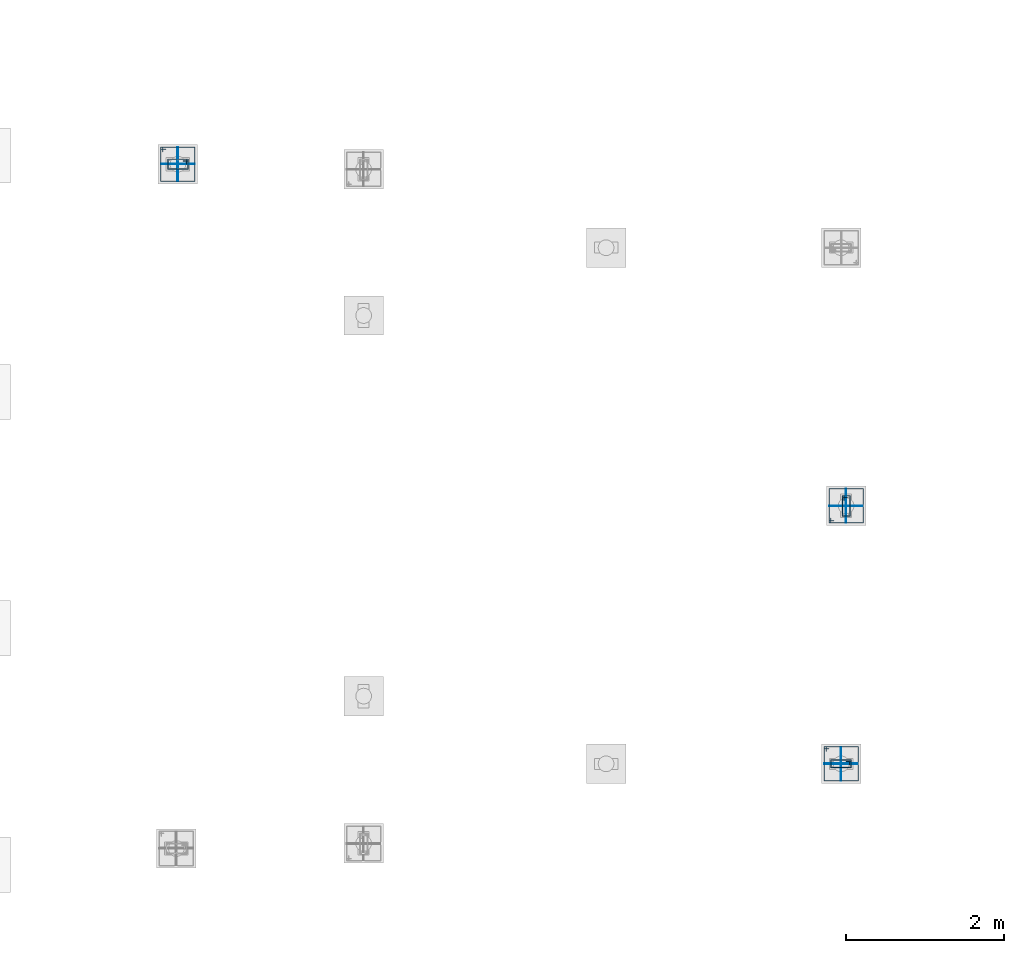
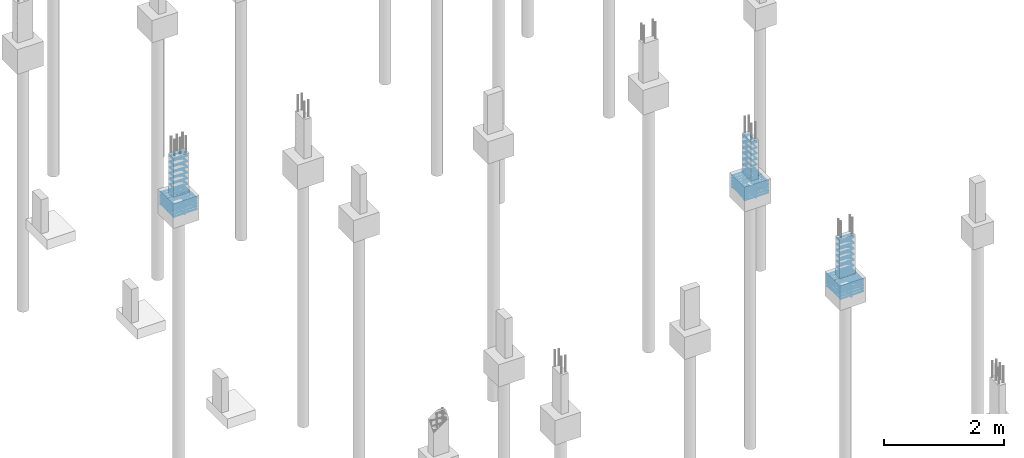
# One storey, part 85 of 119: 51 reinforcing bars.
"""IFC4 building model written with IfcOpenShell, lengths in centimetres."""

import ifcopenshell
import ifcopenshell.guid

model = None  # the IFC model being written
_history = None  # IfcOwnerHistory: only IFC2X3 demands one
_inside = {}  # id of a spatial element -> (the spatial element, [elements in it])
_under = {}  # id of a project, library or spatial element -> (it, [spatial elements below it])
_declared = {}  # id of a project -> (the project, [libraries it declares])
_typed = {}  # id of a type object -> (the type object, [elements of that type])
_made_of = {}  # id of a material, layer set ... -> (it, [elements and type objects made of it])


def new_model(schema):
    """Start an empty IFC model of exactly this schema.

    Asked for "IFC4X3", IfcOpenShell would pick the latest addendum, in which some entities
    have other attributes; the version numbers below select the first issue.
    IFC2X3 requires an IfcOwnerHistory on every rooted entity: one is made here for all.
    """
    global model, _history
    if schema == "IFC4X3":
        model = ifcopenshell.file(schema_version=(4, 3, 0, 0))
    else:
        model = ifcopenshell.file(schema=schema)
    _inside.clear()
    _under.clear()
    _declared.clear()
    _typed.clear()
    _made_of.clear()
    _history = None
    if model.schema == "IFC2X3":
        org = make("IfcOrganization", Name="unknown")
        user = make(
            "IfcPersonAndOrganization",
            ThePerson=make("IfcPerson", FamilyName="unknown"),
            TheOrganization=org,
        )
        app = make(
            "IfcApplication",
            ApplicationDeveloper=org,
            Version="unknown",
            ApplicationFullName="unknown",
            ApplicationIdentifier="unknown",
        )
        _history = make(
            "IfcOwnerHistory",
            OwningUser=user,
            OwningApplication=app,
            ChangeAction="ADDED",
            CreationDate=0,
        )
    return model


def make(cls, **values):
    """One entity of the class cls with the attributes given. An attribute that is None is left unset."""
    return model.create_entity(
        cls, **{name: value for name, value in values.items() if value is not None}
    )


def entity(cls, *values):
    """Any entity or typed value of the class cls, its attributes in the order of the schema. None: left unset."""
    e = model.create_entity(cls)
    for i, value in enumerate(values):
        if value is not None:
            e[i] = value
    return e


def rooted(cls, **values):
    """An entity with a GlobalId (a new one), such as an element, a storey or a relation."""
    return make(cls, GlobalId=ifcopenshell.guid.new(), OwnerHistory=_history, **values)


def si_unit(unit_type, name, prefix=None):
    """IfcSIUnit, for example si_unit("LENGTHUNIT", "METRE", prefix="MILLI")."""
    return make("IfcSIUnit", UnitType=unit_type, Prefix=prefix, Name=name)


def derived_unit(unit_type, elements):
    """IfcDerivedUnit: a product of units, each with its exponent."""
    return make(
        "IfcDerivedUnit",
        Elements=[
            make("IfcDerivedUnitElement", Unit=unit, Exponent=power)
            for unit, power in elements
        ],
        UnitType=unit_type,
    )


def assignment(units):
    """IfcUnitAssignment: the units of a project."""
    return None if units is None else make("IfcUnitAssignment", Units=units)


def point(xyz):
    """IfcCartesianPoint."""
    return None if xyz is None else make("IfcCartesianPoint", Coordinates=xyz)


def direction(xyz):
    """IfcDirection."""
    return None if xyz is None else make("IfcDirection", DirectionRatios=xyz)


def frame(location, z_axis=None, x_axis=None):
    """IfcAxis2Placement3D, a coordinate frame: its origin and axes. An axis left out is left unset."""
    return make(
        "IfcAxis2Placement3D",
        Location=point(location),
        Axis=direction(z_axis),
        RefDirection=direction(x_axis),
    )


def origin_with_axes():
    """The frame at (0, 0, 0) with the z axis (0, 0, 1) and the x axis (1, 0, 0) written out."""
    return frame((0.0, 0.0, 0.0), z_axis=(0.0, 0.0, 1.0), x_axis=(1.0, 0.0, 0.0))


def place(relative_to, where):
    """IfcLocalPlacement: puts the frame where relative to a parent placement (None: the world)."""
    return make(
        "IfcLocalPlacement", PlacementRelTo=relative_to, RelativePlacement=where
    )


def context(
    kind, dimensions, precision=None, world=None, true_north=None, identifier=None
):
    """IfcGeometricRepresentationContext, for example the 3D "Model" context."""
    return make(
        "IfcGeometricRepresentationContext",
        ContextIdentifier=identifier,
        ContextType=kind,
        CoordinateSpaceDimension=dimensions,
        Precision=precision,
        WorldCoordinateSystem=world,
        TrueNorth=true_north,
    )


def project(units=None, contexts=None):
    """IfcProject with its units and contexts."""
    return rooted(
        "IfcProject",
        Name="project",
        RepresentationContexts=contexts,
        UnitsInContext=assignment(units),
    )


def spatial(cls, under=None, at=None, **own):
    """A site, building, storey or space (cls), placed at a placement, below another one or the project."""
    s = rooted(cls, ObjectPlacement=at, **own)
    if under is not None:
        _under.setdefault(under.id(), (under, []))[1].append(s)
    return s


def shape(context_of_items, identifier, shape_type, items):
    """IfcShapeRepresentation: the items that make up one representation, for example the "Body"."""
    return make(
        "IfcShapeRepresentation",
        ContextOfItems=context_of_items,
        RepresentationIdentifier=identifier,
        RepresentationType=shape_type,
        Items=items,
    )


def source(mapping_origin, context_of_items, identifier, shape_type, items):
    """IfcRepresentationMap: a shape defined once, which mapped items show again and again."""
    return make(
        "IfcRepresentationMap",
        MappingOrigin=mapping_origin,
        MappedRepresentation=shape(context_of_items, identifier, shape_type, items),
    )


def transform(
    local_origin,
    x_axis=None,
    y_axis=None,
    z_axis=None,
    scale=None,
    scale2=None,
    scale3=None,
    uniform=True,
):
    """IfcCartesianTransformationOperator3D, or its non-uniform kind. x_axis, y_axis, z_axis: its Axis1, 2, 3."""
    if uniform:
        return make(
            "IfcCartesianTransformationOperator3D",
            Axis1=direction(x_axis),
            Axis2=direction(y_axis),
            LocalOrigin=point(local_origin),
            Scale=scale,
            Axis3=direction(z_axis),
        )
    return make(
        "IfcCartesianTransformationOperator3DnonUniform",
        Axis1=direction(x_axis),
        Axis2=direction(y_axis),
        LocalOrigin=point(local_origin),
        Scale=scale,
        Axis3=direction(z_axis),
        Scale2=scale2,
        Scale3=scale3,
    )


def mapped(mapping_source, mapping_target):
    """IfcMappedItem: shows the shape of a source again, moved by a transform."""
    return make(
        "IfcMappedItem", MappingSource=mapping_source, MappingTarget=mapping_target
    )


def made_of(thing, what):
    """Note that an element or type object is made of a material, layer set ...; save() writes the relation."""
    if what is not None:
        _made_of.setdefault(what.id(), (what, []))[1].append(thing)
    return thing


def element(
    cls,
    number,
    at=None,
    inside=None,
    cuts=None,
    type_object=None,
    material=None,
    context=None,
    identifier="Body",
    shape_type=None,
    held_by="IfcProductDefinitionShape",
    body=None,
    shapes=None,
    **own,
):
    """One element of the class cls, such as IfcWall. Its Tag is "e" and its number.

    at: its placement. inside: the storey or other place that contains it. cuts: it is an
    opening in that element (IfcRelVoidsElement). A single representation is given by context,
    identifier, shape_type and body (its items); several are given by shapes. held_by: the class
    of the entity that holds the representations. save() writes the other relations.
    """
    e = rooted(cls, Tag="e%d" % number, ObjectPlacement=at, **own)
    if body is not None:
        shapes = [shape(context, identifier, shape_type, body)]
    if shapes is not None:
        e.Representation = make(held_by, Representations=shapes)
    if inside is not None:
        _inside.setdefault(inside.id(), (inside, []))[1].append(e)
    if cuts is not None:
        rooted(
            "IfcRelVoidsElement", RelatingBuildingElement=cuts, RelatedOpeningElement=e
        )
    if type_object is not None:
        _typed.setdefault(type_object.id(), (type_object, []))[1].append(e)
    return made_of(e, material)


def aggregate(whole, parts):
    """IfcRelAggregates: a whole, such as a stair, and the parts it consists of."""
    return rooted("IfcRelAggregates", RelatingObject=whole, RelatedObjects=parts)


def save(model, path):
    """Write the relations noted so far, then the file.

    IfcRelAggregates (storeys below a building ...), IfcRelContainedInSpatialStructure (elements
    in a storey), IfcRelDefinesByType, IfcRelAssociatesMaterial and IfcRelDeclares: one each for
    every whole, place, type object, material and project.
    """
    for whole, parts in _under.values():
        aggregate(whole, parts)
    for where, things in _inside.values():
        rooted(
            "IfcRelContainedInSpatialStructure",
            RelatedElements=things,
            RelatingStructure=where,
        )
    for kind, things in _typed.values():
        rooted("IfcRelDefinesByType", RelatedObjects=things, RelatingType=kind)
    for what, things in _made_of.values():
        rooted("IfcRelAssociatesMaterial", RelatedObjects=things, RelatingMaterial=what)
    for by, libraries in _declared.values():
        rooted("IfcRelDeclares", RelatingContext=by, RelatedDefinitions=libraries)
    model.write(path)


model = new_model("IFC4")

# Units and contexts
model_context = context("Model", 3, precision=1e-05, world=origin_with_axes(), identifier="Body")
ifc_project = project(units=[si_unit("LENGTHUNIT", "METRE", prefix="CENTI"), si_unit("VOLUMEUNIT", "CUBIC_METRE"), si_unit("AREAUNIT", "SQUARE_METRE"), si_unit("POWERUNIT", "WATT"), si_unit("LUMINOUSFLUXUNIT", "LUMEN"), si_unit("ELECTRICCURRENTUNIT", "AMPERE"), si_unit("PRESSUREUNIT", "PASCAL", prefix="KILO"), si_unit("MASSUNIT", "GRAM", prefix="KILO"), si_unit("PLANEANGLEUNIT", "RADIAN"), derived_unit("VOLUMETRICFLOWRATEUNIT", [(si_unit("LENGTHUNIT", "METRE"), 3), (si_unit("TIMEUNIT", "SECOND"), -1)])], contexts=[model_context])

# Site, building, storey
site_placement = place(None, frame((-4000.0, 0.0, 0.0), z_axis=(0.0, 0.0, 1.0), x_axis=(1.0, 0.0, 0.0)))
site = spatial("IfcSite", under=ifc_project, at=site_placement, Name="PADRÃO")
building_placement = place(site_placement, frame((0.0, 0.0, -14.0)))
building = spatial("IfcBuilding", under=site, at=building_placement, Name="CRECHE PRÉ-ESCOLA TIPO 2")
storey_placement = place(building_placement, origin_with_axes())
storey = spatial("IfcBuildingStorey", under=building, at=storey_placement, Name="FUNDAÇÃO", CompositionType="ELEMENT", Elevation=-14.0)

# Reinforcing bars
shared_shape_1 = source(origin_with_axes(), model_context, "Body", "AdvancedSweptSolid", [
    entity("IfcSweptDiskSolid", entity("IfcCompositeCurve", [entity("IfcCompositeCurveSegment", "CONTINUOUS", True, entity("IfcPolyline", [entity("IfcCartesianPoint", [4.25, 21.75, 0.0]), entity("IfcCartesianPoint", [4.25, 27.75, 0.0])])), entity("IfcCompositeCurveSegment", "CONTINUOUS", True, entity("IfcPolyline", [entity("IfcCartesianPoint", [4.25, 27.75, 0.0]), entity("IfcCartesianPoint", [2.25, 27.75, 0.0])])), entity("IfcCompositeCurveSegment", "CONTINUOUS", True, entity("IfcPolyline", [entity("IfcCartesianPoint", [2.25, 27.75, 0.0]), entity("IfcCartesianPoint", [2.25, 2.25, 0.0])])), entity("IfcCompositeCurveSegment", "CONTINUOUS", True, entity("IfcPolyline", [entity("IfcCartesianPoint", [2.25, 2.25, 0.0]), entity("IfcCartesianPoint", [14.75, 2.25, 0.0])])), entity("IfcCompositeCurveSegment", "CONTINUOUS", True, entity("IfcPolyline", [entity("IfcCartesianPoint", [14.75, 2.25, 0.0]), entity("IfcCartesianPoint", [14.75, 27.75, -0.5])])), entity("IfcCompositeCurveSegment", "CONTINUOUS", True, entity("IfcPolyline", [entity("IfcCartesianPoint", [14.75, 27.75, -0.5]), entity("IfcCartesianPoint", [2.25, 27.75, -0.5])])), entity("IfcCompositeCurveSegment", "CONTINUOUS", True, entity("IfcPolyline", [entity("IfcCartesianPoint", [2.25, 27.75, -0.5]), entity("IfcCartesianPoint", [2.25, 25.75, -0.5])])), entity("IfcCompositeCurveSegment", "CONTINUOUS", True, entity("IfcPolyline", [entity("IfcCartesianPoint", [2.25, 25.75, -0.5]), entity("IfcCartesianPoint", [8.25, 25.75, -0.5])]))], False), 0.25),
])
for number, where, z_axis, x_axis, name in (
    (1, (253.0, 2692.01, -74.75), (0.0, 0.0, 1.0), (0.0, -1.0, 0.0), "P65 - Estribo"),
    (2, (253.0, 2692.01, -51.75), (0.0, 0.0, 1.0), (0.0, -1.0, 0.0), "P65 - Estribo"),
    (3, (253.0, 2692.01, -40.25), (0.0, 0.0, 1.0), (0.0, -1.0, 0.0), "P65 - Estribo"),
    (4, (253.0, 2692.01, -28.75), (0.0, 0.0, 1.0), (0.0, -1.0, 0.0), "P65 - Estribo"),
    (5, (253.0, 2692.01, -63.25), (0.0, 0.0, 1.0), (0.0, -1.0, 0.0), "P65 - Estribo"),
    (6, (253.0, 2692.01, -5.75), (0.0, 0.0, 1.0), (0.0, -1.0, 0.0), "P65 - Estribo"),
    (7, (253.0, 2692.01, -17.25), (0.0, 0.0, 1.0), (0.0, -1.0, 0.0), "P65 - Estribo"),
    (8, (253.0, 2692.01, -109.25), (0.0, 0.0, 1.0), (0.0, -1.0, 0.0), "P65 - Estribo"),
    (9, (253.0, 2692.01, -97.75), (0.0, 0.0, 1.0), (0.0, -1.0, 0.0), "P65 - Estribo"),
    (10, (253.0, 2692.01, -86.25), (0.0, 0.0, 1.0), (0.0, -1.0, 0.0), "P65 - Estribo"),
):
    element("IfcReinforcingBar", number, at=place(storey_placement, frame(where, z_axis=z_axis, x_axis=x_axis)), inside=storey, Name=name, BarLength=0.0, CrossSectionArea=1.9634954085e-05, NominalDiameter=0.5, PredefinedType="MAIN", context=model_context, shape_type="MappedRepresentation", body=[
        mapped(shared_shape_1, transform((0.0, 0.0, 0.0), scale=1.0)),
    ])
shared_shape_2 = source(origin_with_axes(), model_context, "Body", "AdvancedSweptSolid", [
    entity("IfcSweptDiskSolid", entity("IfcCompositeCurve", [entity("IfcCompositeCurveSegment", "CONTINUOUS", True, entity("IfcPolyline", [entity("IfcCartesianPoint", [248.835, 2698.935, 0.0]), entity("IfcCartesianPoint", [248.835, 2705.195, 0.0])])), entity("IfcCompositeCurveSegment", "CONTINUOUS", True, entity("IfcPolyline", [entity("IfcCartesianPoint", [248.835, 2705.195, 0.0]), entity("IfcCartesianPoint", [246.315, 2705.195, 0.0])])), entity("IfcCompositeCurveSegment", "CONTINUOUS", True, entity("IfcPolyline", [entity("IfcCartesianPoint", [246.315, 2705.195, 0.0]), entity("IfcCartesianPoint", [246.315, 2661.825, 0.0])])), entity("IfcCompositeCurveSegment", "CONTINUOUS", True, entity("IfcPolyline", [entity("IfcCartesianPoint", [246.315, 2661.825, 0.0]), entity("IfcCartesianPoint", [289.685, 2661.825, 0.63])])), entity("IfcCompositeCurveSegment", "CONTINUOUS", True, entity("IfcPolyline", [entity("IfcCartesianPoint", [289.685, 2661.825, 0.63]), entity("IfcCartesianPoint", [289.685, 2705.195, 0.63])])), entity("IfcCompositeCurveSegment", "CONTINUOUS", True, entity("IfcPolyline", [entity("IfcCartesianPoint", [289.685, 2705.195, 0.63]), entity("IfcCartesianPoint", [246.315, 2705.195, 0.63])])), entity("IfcCompositeCurveSegment", "CONTINUOUS", True, entity("IfcPolyline", [entity("IfcCartesianPoint", [246.315, 2705.195, 0.63]), entity("IfcCartesianPoint", [246.315, 2702.675, 0.63])])), entity("IfcCompositeCurveSegment", "CONTINUOUS", True, entity("IfcPolyline", [entity("IfcCartesianPoint", [246.315, 2702.675, 0.63]), entity("IfcCartesianPoint", [252.575, 2702.675, 0.63])]))], False), 0.315),
])
for number, where, z_axis, x_axis, name in (
    (11, (0.0, 0.0, -86.575), (0.0, 0.0, 1.0), (1.0, 0.0, 0.0), "P65 - Blocos (estribos)"),
    (12, (0.0, 0.0, -109.175), (0.0, 0.0, 1.0), (1.0, 0.0, 0.0), "P65 - Blocos (estribos)"),
    (13, (0.0, 0.0, -103.525), (0.0, 0.0, 1.0), (1.0, 0.0, 0.0), "P65 - Blocos (estribos)"),
    (14, (0.0, 0.0, -97.875), (0.0, 0.0, 1.0), (1.0, 0.0, 0.0), "P65 - Blocos (estribos)"),
    (15, (0.0, 0.0, -92.225), (0.0, 0.0, 1.0), (1.0, 0.0, 0.0), "P65 - Blocos (estribos)"),
):
    element("IfcReinforcingBar", number, at=place(storey_placement, frame(where, z_axis=z_axis, x_axis=x_axis)), inside=storey, Name=name, BarLength=0.0, CrossSectionArea=3.1172453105e-05, NominalDiameter=0.63, PredefinedType="MAIN", context=model_context, shape_type="MappedRepresentation", body=[
        mapped(shared_shape_2, transform((0.0, 0.0, 0.0), scale=1.0)),
    ])
shared_shape_3 = source(origin_with_axes(), model_context, "Body", "AdvancedSweptSolid", [
    entity("IfcSweptDiskSolid", entity("IfcCompositeCurve", [entity("IfcCompositeCurveSegment", "CONTINUOUS", True, entity("IfcPolyline", [entity("IfcCartesianPoint", [-15.12, -12.0, 0.0]), entity("IfcCartesianPoint", [-21.12, -12.0, 0.0])])), entity("IfcCompositeCurveSegment", "CONTINUOUS", True, entity("IfcPolyline", [entity("IfcCartesianPoint", [-21.12, -12.0, 0.0]), entity("IfcCartesianPoint", [-21.12, -14.0, 0.0])])), entity("IfcCompositeCurveSegment", "CONTINUOUS", True, entity("IfcPolyline", [entity("IfcCartesianPoint", [-21.12, -14.0, 0.0]), entity("IfcCartesianPoint", [21.12, -14.0, 0.0])])), entity("IfcCompositeCurveSegment", "CONTINUOUS", True, entity("IfcPolyline", [entity("IfcCartesianPoint", [21.12, -14.0, 0.0]), entity("IfcCartesianPoint", [21.12, 14.0, 0.5])])), entity("IfcCompositeCurveSegment", "CONTINUOUS", True, entity("IfcPolyline", [entity("IfcCartesianPoint", [21.12, 14.0, 0.5]), entity("IfcCartesianPoint", [-21.12, 14.0, 0.5])])), entity("IfcCompositeCurveSegment", "CONTINUOUS", True, entity("IfcPolyline", [entity("IfcCartesianPoint", [-21.12, 14.0, 0.5]), entity("IfcCartesianPoint", [-21.12, -14.0, 0.5])])), entity("IfcCompositeCurveSegment", "CONTINUOUS", True, entity("IfcPolyline", [entity("IfcCartesianPoint", [-21.12, -14.0, 0.5]), entity("IfcCartesianPoint", [-19.12, -14.0, 0.5])])), entity("IfcCompositeCurveSegment", "CONTINUOUS", True, entity("IfcPolyline", [entity("IfcCartesianPoint", [-19.12, -14.0, 0.5]), entity("IfcCartesianPoint", [-19.12, -8.0, 0.5])]))], False), 0.25),
])
reinforcing_bar_1_placement = place(storey_placement, frame((268.0, 2683.51, -97.75), z_axis=(0.0, 1.0, 0.0), x_axis=(1.0, 0.0, 0.0)))
element("IfcReinforcingBar", 16, at=reinforcing_bar_1_placement, inside=storey, Name="P65 - Blocos (estribos)", BarLength=0.0, CrossSectionArea=1.9634954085e-05, NominalDiameter=0.5, PredefinedType="MAIN", context=model_context, shape_type="MappedRepresentation", body=[
    mapped(shared_shape_3, transform((0.0, 0.0, 0.0), scale=1.0)),
])
shared_shape_4 = source(origin_with_axes(), model_context, "Body", "AdvancedSweptSolid", [
    entity("IfcSweptDiskSolid", entity("IfcCompositeCurve", [entity("IfcCompositeCurveSegment", "CONTINUOUS", True, entity("IfcPolyline", [entity("IfcCartesianPoint", [-15.12, -12.0, 0.0]), entity("IfcCartesianPoint", [-21.12, -12.0, 0.0])])), entity("IfcCompositeCurveSegment", "CONTINUOUS", True, entity("IfcPolyline", [entity("IfcCartesianPoint", [-21.12, -12.0, 0.0]), entity("IfcCartesianPoint", [-21.12, -14.0, 0.0])])), entity("IfcCompositeCurveSegment", "CONTINUOUS", True, entity("IfcPolyline", [entity("IfcCartesianPoint", [-21.12, -14.0, 0.0]), entity("IfcCartesianPoint", [21.12, -14.0, 0.0])])), entity("IfcCompositeCurveSegment", "CONTINUOUS", True, entity("IfcPolyline", [entity("IfcCartesianPoint", [21.12, -14.0, 0.0]), entity("IfcCartesianPoint", [21.12, 14.0, 0.5])])), entity("IfcCompositeCurveSegment", "CONTINUOUS", True, entity("IfcPolyline", [entity("IfcCartesianPoint", [21.12, 14.0, 0.5]), entity("IfcCartesianPoint", [-21.12, 14.0, 0.5])])), entity("IfcCompositeCurveSegment", "CONTINUOUS", True, entity("IfcPolyline", [entity("IfcCartesianPoint", [-21.12, 14.0, 0.5]), entity("IfcCartesianPoint", [-21.12, -14.0, 0.5])])), entity("IfcCompositeCurveSegment", "CONTINUOUS", True, entity("IfcPolyline", [entity("IfcCartesianPoint", [-21.12, -14.0, 0.5]), entity("IfcCartesianPoint", [-19.12, -14.0, 0.5])])), entity("IfcCompositeCurveSegment", "CONTINUOUS", True, entity("IfcPolyline", [entity("IfcCartesianPoint", [-19.12, -14.0, 0.5]), entity("IfcCartesianPoint", [-19.12, -8.0, 0.5])]))], False), 0.25),
])
reinforcing_bar_2_placement = place(storey_placement, frame((268.0, 2683.51, -97.75), z_axis=(-1.0, 0.0, 0.0), x_axis=(0.0, 1.0, 0.0)))
element("IfcReinforcingBar", 17, at=reinforcing_bar_2_placement, inside=storey, Name="P65 - Blocos (estribos)", BarLength=0.0, CrossSectionArea=1.9634954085e-05, NominalDiameter=0.5, PredefinedType="MAIN", context=model_context, shape_type="MappedRepresentation", body=[
    mapped(shared_shape_4, transform((0.0, 0.0, 0.0), scale=1.0)),
])
shared_shape_5 = source(origin_with_axes(), model_context, "Body", "AdvancedSweptSolid", [
    entity("IfcSweptDiskSolid", entity("IfcCompositeCurve", [entity("IfcCompositeCurveSegment", "CONTINUOUS", True, entity("IfcPolyline", [entity("IfcCartesianPoint", [4.25, 21.75, 0.0]), entity("IfcCartesianPoint", [4.25, 27.75, 0.0])])), entity("IfcCompositeCurveSegment", "CONTINUOUS", True, entity("IfcPolyline", [entity("IfcCartesianPoint", [4.25, 27.75, 0.0]), entity("IfcCartesianPoint", [2.25, 27.75, 0.0])])), entity("IfcCompositeCurveSegment", "CONTINUOUS", True, entity("IfcPolyline", [entity("IfcCartesianPoint", [2.25, 27.75, 0.0]), entity("IfcCartesianPoint", [2.25, 2.25, 0.0])])), entity("IfcCompositeCurveSegment", "CONTINUOUS", True, entity("IfcPolyline", [entity("IfcCartesianPoint", [2.25, 2.25, 0.0]), entity("IfcCartesianPoint", [11.75, 2.25, 0.0])])), entity("IfcCompositeCurveSegment", "CONTINUOUS", True, entity("IfcPolyline", [entity("IfcCartesianPoint", [11.75, 2.25, 0.0]), entity("IfcCartesianPoint", [11.75, 27.75, -0.5])])), entity("IfcCompositeCurveSegment", "CONTINUOUS", True, entity("IfcPolyline", [entity("IfcCartesianPoint", [11.75, 27.75, -0.5]), entity("IfcCartesianPoint", [2.25, 27.75, -0.5])])), entity("IfcCompositeCurveSegment", "CONTINUOUS", True, entity("IfcPolyline", [entity("IfcCartesianPoint", [2.25, 27.75, -0.5]), entity("IfcCartesianPoint", [2.25, 25.75, -0.5])])), entity("IfcCompositeCurveSegment", "CONTINUOUS", True, entity("IfcPolyline", [entity("IfcCartesianPoint", [2.25, 25.75, -0.5]), entity("IfcCartesianPoint", [8.25, 25.75, -0.5])]))], False), 0.25),
])
for number, where, z_axis, x_axis, name in (
    (18, (1094.72, 1929.5, -109.25), (0.0, 0.0, 1.0), (0.0, -1.0, 0.0), "P87 - Estribo"),
    (19, (1094.72, 1929.5, -97.75), (0.0, 0.0, 1.0), (0.0, -1.0, 0.0), "P87 - Estribo"),
    (20, (1094.72, 1929.5, -86.25), (0.0, 0.0, 1.0), (0.0, -1.0, 0.0), "P87 - Estribo"),
    (21, (1094.72, 1929.5, -74.75), (0.0, 0.0, 1.0), (0.0, -1.0, 0.0), "P87 - Estribo"),
    (22, (1094.72, 1929.5, -63.25), (0.0, 0.0, 1.0), (0.0, -1.0, 0.0), "P87 - Estribo"),
    (23, (1094.72, 1929.5, -51.75), (0.0, 0.0, 1.0), (0.0, -1.0, 0.0), "P87 - Estribo"),
    (24, (1094.72, 1929.5, -40.25), (0.0, 0.0, 1.0), (0.0, -1.0, 0.0), "P87 - Estribo"),
    (25, (1094.72, 1929.5, -28.75), (0.0, 0.0, 1.0), (0.0, -1.0, 0.0), "P87 - Estribo"),
    (26, (1094.72, 1929.5, -17.25), (0.0, 0.0, 1.0), (0.0, -1.0, 0.0), "P87 - Estribo"),
    (27, (1094.72, 1929.5, -5.75), (0.0, 0.0, 1.0), (0.0, -1.0, 0.0), "P87 - Estribo"),
):
    element("IfcReinforcingBar", number, at=place(storey_placement, frame(where, z_axis=z_axis, x_axis=x_axis)), inside=storey, Name=name, BarLength=0.0, CrossSectionArea=1.9634954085e-05, NominalDiameter=0.5, PredefinedType="MAIN", context=model_context, shape_type="MappedRepresentation", body=[
        mapped(shared_shape_5, transform((0.0, 0.0, 0.0), scale=1.0)),
    ])
shared_shape_6 = source(origin_with_axes(), model_context, "Body", "AdvancedSweptSolid", [
    entity("IfcSweptDiskSolid", entity("IfcCompositeCurve", [entity("IfcCompositeCurveSegment", "CONTINUOUS", True, entity("IfcPolyline", [entity("IfcCartesianPoint", [1090.555, 1937.925, 0.0]), entity("IfcCartesianPoint", [1090.555, 1944.185, 0.0])])), entity("IfcCompositeCurveSegment", "CONTINUOUS", True, entity("IfcPolyline", [entity("IfcCartesianPoint", [1090.555, 1944.185, 0.0]), entity("IfcCartesianPoint", [1088.035, 1944.185, 0.0])])), entity("IfcCompositeCurveSegment", "CONTINUOUS", True, entity("IfcPolyline", [entity("IfcCartesianPoint", [1088.035, 1944.185, 0.0]), entity("IfcCartesianPoint", [1088.035, 1900.815, 0.0])])), entity("IfcCompositeCurveSegment", "CONTINUOUS", True, entity("IfcPolyline", [entity("IfcCartesianPoint", [1088.035, 1900.815, 0.0]), entity("IfcCartesianPoint", [1131.405, 1900.815, 0.63])])), entity("IfcCompositeCurveSegment", "CONTINUOUS", True, entity("IfcPolyline", [entity("IfcCartesianPoint", [1131.405, 1900.815, 0.63]), entity("IfcCartesianPoint", [1131.405, 1944.185, 0.63])])), entity("IfcCompositeCurveSegment", "CONTINUOUS", True, entity("IfcPolyline", [entity("IfcCartesianPoint", [1131.405, 1944.185, 0.63]), entity("IfcCartesianPoint", [1088.035, 1944.185, 0.63])])), entity("IfcCompositeCurveSegment", "CONTINUOUS", True, entity("IfcPolyline", [entity("IfcCartesianPoint", [1088.035, 1944.185, 0.63]), entity("IfcCartesianPoint", [1088.035, 1941.665, 0.63])])), entity("IfcCompositeCurveSegment", "CONTINUOUS", True, entity("IfcPolyline", [entity("IfcCartesianPoint", [1088.035, 1941.665, 0.63]), entity("IfcCartesianPoint", [1094.295, 1941.665, 0.63])]))], False), 0.315),
])
for number, where, z_axis, x_axis, name in (
    (28, (0.0, 0.0, -103.525), (0.0, 0.0, 1.0), (1.0, 0.0, 0.0), "P87 - Blocos (estribos)"),
    (29, (0.0, 0.0, -97.875), (0.0, 0.0, 1.0), (1.0, 0.0, 0.0), "P87 - Blocos (estribos)"),
    (30, (0.0, 0.0, -92.225), (0.0, 0.0, 1.0), (1.0, 0.0, 0.0), "P87 - Blocos (estribos)"),
    (31, (0.0, 0.0, -86.575), (0.0, 0.0, 1.0), (1.0, 0.0, 0.0), "P87 - Blocos (estribos)"),
    (32, (0.0, 0.0, -109.175), (0.0, 0.0, 1.0), (1.0, 0.0, 0.0), "P87 - Blocos (estribos)"),
):
    element("IfcReinforcingBar", number, at=place(storey_placement, frame(where, z_axis=z_axis, x_axis=x_axis)), inside=storey, Name=name, BarLength=0.0, CrossSectionArea=3.1172453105e-05, NominalDiameter=0.63, PredefinedType="MAIN", context=model_context, shape_type="MappedRepresentation", body=[
        mapped(shared_shape_6, transform((0.0, 0.0, 0.0), scale=1.0)),
    ])
shared_shape_7 = source(origin_with_axes(), model_context, "Body", "AdvancedSweptSolid", [
    entity("IfcSweptDiskSolid", entity("IfcCompositeCurve", [entity("IfcCompositeCurveSegment", "CONTINUOUS", True, entity("IfcPolyline", [entity("IfcCartesianPoint", [-15.12, -12.0, 0.0]), entity("IfcCartesianPoint", [-21.12, -12.0, 0.0])])), entity("IfcCompositeCurveSegment", "CONTINUOUS", True, entity("IfcPolyline", [entity("IfcCartesianPoint", [-21.12, -12.0, 0.0]), entity("IfcCartesianPoint", [-21.12, -14.0, 0.0])])), entity("IfcCompositeCurveSegment", "CONTINUOUS", True, entity("IfcPolyline", [entity("IfcCartesianPoint", [-21.12, -14.0, 0.0]), entity("IfcCartesianPoint", [21.12, -14.0, 0.0])])), entity("IfcCompositeCurveSegment", "CONTINUOUS", True, entity("IfcPolyline", [entity("IfcCartesianPoint", [21.12, -14.0, 0.0]), entity("IfcCartesianPoint", [21.12, 14.0, 0.5])])), entity("IfcCompositeCurveSegment", "CONTINUOUS", True, entity("IfcPolyline", [entity("IfcCartesianPoint", [21.12, 14.0, 0.5]), entity("IfcCartesianPoint", [-21.12, 14.0, 0.5])])), entity("IfcCompositeCurveSegment", "CONTINUOUS", True, entity("IfcPolyline", [entity("IfcCartesianPoint", [-21.12, 14.0, 0.5]), entity("IfcCartesianPoint", [-21.12, -14.0, 0.5])])), entity("IfcCompositeCurveSegment", "CONTINUOUS", True, entity("IfcPolyline", [entity("IfcCartesianPoint", [-21.12, -14.0, 0.5]), entity("IfcCartesianPoint", [-19.12, -14.0, 0.5])])), entity("IfcCompositeCurveSegment", "CONTINUOUS", True, entity("IfcPolyline", [entity("IfcCartesianPoint", [-19.12, -14.0, 0.5]), entity("IfcCartesianPoint", [-19.12, -8.0, 0.5])]))], False), 0.25),
])
reinforcing_bar_3_placement = place(storey_placement, frame((1109.72, 1922.5, -97.75), z_axis=(0.0, 1.0, 0.0), x_axis=(1.0, 0.0, 0.0)))
element("IfcReinforcingBar", 33, at=reinforcing_bar_3_placement, inside=storey, Name="P87 - Blocos (estribos)", BarLength=0.0, CrossSectionArea=1.9634954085e-05, NominalDiameter=0.5, PredefinedType="MAIN", context=model_context, shape_type="MappedRepresentation", body=[
    mapped(shared_shape_7, transform((0.0, 0.0, 0.0), scale=1.0)),
])
shared_shape_8 = source(origin_with_axes(), model_context, "Body", "AdvancedSweptSolid", [
    entity("IfcSweptDiskSolid", entity("IfcCompositeCurve", [entity("IfcCompositeCurveSegment", "CONTINUOUS", True, entity("IfcPolyline", [entity("IfcCartesianPoint", [-15.12, -12.0, 0.0]), entity("IfcCartesianPoint", [-21.12, -12.0, 0.0])])), entity("IfcCompositeCurveSegment", "CONTINUOUS", True, entity("IfcPolyline", [entity("IfcCartesianPoint", [-21.12, -12.0, 0.0]), entity("IfcCartesianPoint", [-21.12, -14.0, 0.0])])), entity("IfcCompositeCurveSegment", "CONTINUOUS", True, entity("IfcPolyline", [entity("IfcCartesianPoint", [-21.12, -14.0, 0.0]), entity("IfcCartesianPoint", [21.12, -14.0, 0.0])])), entity("IfcCompositeCurveSegment", "CONTINUOUS", True, entity("IfcPolyline", [entity("IfcCartesianPoint", [21.12, -14.0, 0.0]), entity("IfcCartesianPoint", [21.12, 14.0, 0.5])])), entity("IfcCompositeCurveSegment", "CONTINUOUS", True, entity("IfcPolyline", [entity("IfcCartesianPoint", [21.12, 14.0, 0.5]), entity("IfcCartesianPoint", [-21.12, 14.0, 0.5])])), entity("IfcCompositeCurveSegment", "CONTINUOUS", True, entity("IfcPolyline", [entity("IfcCartesianPoint", [-21.12, 14.0, 0.5]), entity("IfcCartesianPoint", [-21.12, -14.0, 0.5])])), entity("IfcCompositeCurveSegment", "CONTINUOUS", True, entity("IfcPolyline", [entity("IfcCartesianPoint", [-21.12, -14.0, 0.5]), entity("IfcCartesianPoint", [-19.12, -14.0, 0.5])])), entity("IfcCompositeCurveSegment", "CONTINUOUS", True, entity("IfcPolyline", [entity("IfcCartesianPoint", [-19.12, -14.0, 0.5]), entity("IfcCartesianPoint", [-19.12, -8.0, 0.5])]))], False), 0.25),
])
reinforcing_bar_4_placement = place(storey_placement, frame((1109.72, 1922.5, -97.75), z_axis=(-1.0, 0.0, 0.0), x_axis=(0.0, 1.0, 0.0)))
element("IfcReinforcingBar", 34, at=reinforcing_bar_4_placement, inside=storey, Name="P87 - Blocos (estribos)", BarLength=0.0, CrossSectionArea=1.9634954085e-05, NominalDiameter=0.5, PredefinedType="MAIN", context=model_context, shape_type="MappedRepresentation", body=[
    mapped(shared_shape_8, transform((0.0, 0.0, 0.0), scale=1.0)),
])
shared_shape_9 = source(origin_with_axes(), model_context, "Body", "AdvancedSweptSolid", [
    entity("IfcSweptDiskSolid", entity("IfcCompositeCurve", [entity("IfcCompositeCurveSegment", "CONTINUOUS", True, entity("IfcPolyline", [entity("IfcCartesianPoint", [4.25, 21.75, 0.0]), entity("IfcCartesianPoint", [4.25, 27.75, 0.0])])), entity("IfcCompositeCurveSegment", "CONTINUOUS", True, entity("IfcPolyline", [entity("IfcCartesianPoint", [4.25, 27.75, 0.0]), entity("IfcCartesianPoint", [2.25, 27.75, 0.0])])), entity("IfcCompositeCurveSegment", "CONTINUOUS", True, entity("IfcPolyline", [entity("IfcCartesianPoint", [2.25, 27.75, 0.0]), entity("IfcCartesianPoint", [2.25, 2.25, 0.0])])), entity("IfcCompositeCurveSegment", "CONTINUOUS", True, entity("IfcPolyline", [entity("IfcCartesianPoint", [2.25, 2.25, 0.0]), entity("IfcCartesianPoint", [11.75, 2.25, 0.0])])), entity("IfcCompositeCurveSegment", "CONTINUOUS", True, entity("IfcPolyline", [entity("IfcCartesianPoint", [11.75, 2.25, 0.0]), entity("IfcCartesianPoint", [11.75, 27.75, -0.5])])), entity("IfcCompositeCurveSegment", "CONTINUOUS", True, entity("IfcPolyline", [entity("IfcCartesianPoint", [11.75, 27.75, -0.5]), entity("IfcCartesianPoint", [2.25, 27.75, -0.5])])), entity("IfcCompositeCurveSegment", "CONTINUOUS", True, entity("IfcPolyline", [entity("IfcCartesianPoint", [2.25, 27.75, -0.5]), entity("IfcCartesianPoint", [2.25, 25.75, -0.5])])), entity("IfcCompositeCurveSegment", "CONTINUOUS", True, entity("IfcPolyline", [entity("IfcCartesianPoint", [2.25, 25.75, -0.5]), entity("IfcCartesianPoint", [8.25, 25.75, -0.5])]))], False), 0.25),
])
for number, where, z_axis, x_axis, name in (
    (35, (1109.0, 2235.0, -97.75), (0.0, 0.0, 1.0), (1.0, 0.0, 0.0), "P79 - Estribo"),
    (36, (1109.0, 2235.0, -86.25), (0.0, 0.0, 1.0), (1.0, 0.0, 0.0), "P79 - Estribo"),
    (37, (1109.0, 2235.0, -74.75), (0.0, 0.0, 1.0), (1.0, 0.0, 0.0), "P79 - Estribo"),
    (38, (1109.0, 2235.0, -63.25), (0.0, 0.0, 1.0), (1.0, 0.0, 0.0), "P79 - Estribo"),
    (39, (1109.0, 2235.0, -51.75), (0.0, 0.0, 1.0), (1.0, 0.0, 0.0), "P79 - Estribo"),
    (40, (1109.0, 2235.0, -40.25), (0.0, 0.0, 1.0), (1.0, 0.0, 0.0), "P79 - Estribo"),
    (41, (1109.0, 2235.0, -17.25), (0.0, 0.0, 1.0), (1.0, 0.0, 0.0), "P79 - Estribo"),
    (42, (1109.0, 2235.0, -5.75), (0.0, 0.0, 1.0), (1.0, 0.0, 0.0), "P79 - Estribo"),
    (43, (1109.0, 2235.0, -28.75), (0.0, 0.0, 1.0), (1.0, 0.0, 0.0), "P79 - Estribo"),
    (44, (1109.0, 2235.0, -109.25), (0.0, 0.0, 1.0), (1.0, 0.0, 0.0), "P79 - Estribo"),
):
    element("IfcReinforcingBar", number, at=place(storey_placement, frame(where, z_axis=z_axis, x_axis=x_axis)), inside=storey, Name=name, BarLength=0.0, CrossSectionArea=1.9634954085e-05, NominalDiameter=0.5, PredefinedType="MAIN", context=model_context, shape_type="MappedRepresentation", body=[
        mapped(shared_shape_9, transform((0.0, 0.0, 0.0), scale=1.0)),
    ])
shared_shape_10 = source(origin_with_axes(), model_context, "Body", "AdvancedSweptSolid", [
    entity("IfcSweptDiskSolid", entity("IfcCompositeCurve", [entity("IfcCompositeCurveSegment", "CONTINUOUS", True, entity("IfcPolyline", [entity("IfcCartesianPoint", [1100.575, 2230.835, 0.0]), entity("IfcCartesianPoint", [1094.315, 2230.835, 0.0])])), entity("IfcCompositeCurveSegment", "CONTINUOUS", True, entity("IfcPolyline", [entity("IfcCartesianPoint", [1094.315, 2230.835, 0.0]), entity("IfcCartesianPoint", [1094.315, 2228.315, 0.0])])), entity("IfcCompositeCurveSegment", "CONTINUOUS", True, entity("IfcPolyline", [entity("IfcCartesianPoint", [1094.315, 2228.315, 0.0]), entity("IfcCartesianPoint", [1137.685, 2228.315, 0.0])])), entity("IfcCompositeCurveSegment", "CONTINUOUS", True, entity("IfcPolyline", [entity("IfcCartesianPoint", [1137.685, 2228.315, 0.0]), entity("IfcCartesianPoint", [1137.685, 2271.685, 0.63])])), entity("IfcCompositeCurveSegment", "CONTINUOUS", True, entity("IfcPolyline", [entity("IfcCartesianPoint", [1137.685, 2271.685, 0.63]), entity("IfcCartesianPoint", [1094.315, 2271.685, 0.63])])), entity("IfcCompositeCurveSegment", "CONTINUOUS", True, entity("IfcPolyline", [entity("IfcCartesianPoint", [1094.315, 2271.685, 0.63]), entity("IfcCartesianPoint", [1094.315, 2228.315, 0.63])])), entity("IfcCompositeCurveSegment", "CONTINUOUS", True, entity("IfcPolyline", [entity("IfcCartesianPoint", [1094.315, 2228.315, 0.63]), entity("IfcCartesianPoint", [1096.835, 2228.315, 0.63])])), entity("IfcCompositeCurveSegment", "CONTINUOUS", True, entity("IfcPolyline", [entity("IfcCartesianPoint", [1096.835, 2228.315, 0.63]), entity("IfcCartesianPoint", [1096.835, 2234.575, 0.63])]))], False), 0.315),
])
for number, where, z_axis, x_axis, name in (
    (45, (0.0, 0.0, -109.175), (0.0, 0.0, 1.0), (1.0, 0.0, 0.0), "P79 - Blocos (estribos)"),
    (46, (0.0, 0.0, -103.525), (0.0, 0.0, 1.0), (1.0, 0.0, 0.0), "P79 - Blocos (estribos)"),
    (47, (0.0, 0.0, -97.875), (0.0, 0.0, 1.0), (1.0, 0.0, 0.0), "P79 - Blocos (estribos)"),
    (48, (0.0, 0.0, -92.225), (0.0, 0.0, 1.0), (1.0, 0.0, 0.0), "P79 - Blocos (estribos)"),
    (49, (0.0, 0.0, -86.575), (0.0, 0.0, 1.0), (1.0, 0.0, 0.0), "P79 - Blocos (estribos)"),
):
    element("IfcReinforcingBar", number, at=place(storey_placement, frame(where, z_axis=z_axis, x_axis=x_axis)), inside=storey, Name=name, BarLength=0.0, CrossSectionArea=3.1172453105e-05, NominalDiameter=0.63, PredefinedType="MAIN", context=model_context, shape_type="MappedRepresentation", body=[
        mapped(shared_shape_10, transform((0.0, 0.0, 0.0), scale=1.0)),
    ])
shared_shape_11 = source(origin_with_axes(), model_context, "Body", "AdvancedSweptSolid", [
    entity("IfcSweptDiskSolid", entity("IfcCompositeCurve", [entity("IfcCompositeCurveSegment", "CONTINUOUS", True, entity("IfcPolyline", [entity("IfcCartesianPoint", [-15.12, -12.0, 0.0]), entity("IfcCartesianPoint", [-21.12, -12.0, 0.0])])), entity("IfcCompositeCurveSegment", "CONTINUOUS", True, entity("IfcPolyline", [entity("IfcCartesianPoint", [-21.12, -12.0, 0.0]), entity("IfcCartesianPoint", [-21.12, -14.0, 0.0])])), entity("IfcCompositeCurveSegment", "CONTINUOUS", True, entity("IfcPolyline", [entity("IfcCartesianPoint", [-21.12, -14.0, 0.0]), entity("IfcCartesianPoint", [21.12, -14.0, 0.0])])), entity("IfcCompositeCurveSegment", "CONTINUOUS", True, entity("IfcPolyline", [entity("IfcCartesianPoint", [21.12, -14.0, 0.0]), entity("IfcCartesianPoint", [21.12, 14.0, 0.5])])), entity("IfcCompositeCurveSegment", "CONTINUOUS", True, entity("IfcPolyline", [entity("IfcCartesianPoint", [21.12, 14.0, 0.5]), entity("IfcCartesianPoint", [-21.12, 14.0, 0.5])])), entity("IfcCompositeCurveSegment", "CONTINUOUS", True, entity("IfcPolyline", [entity("IfcCartesianPoint", [-21.12, 14.0, 0.5]), entity("IfcCartesianPoint", [-21.12, -14.0, 0.5])])), entity("IfcCompositeCurveSegment", "CONTINUOUS", True, entity("IfcPolyline", [entity("IfcCartesianPoint", [-21.12, -14.0, 0.5]), entity("IfcCartesianPoint", [-19.12, -14.0, 0.5])])), entity("IfcCompositeCurveSegment", "CONTINUOUS", True, entity("IfcPolyline", [entity("IfcCartesianPoint", [-19.12, -14.0, 0.5]), entity("IfcCartesianPoint", [-19.12, -8.0, 0.5])]))], False), 0.25),
])
reinforcing_bar_5_placement = place(storey_placement, frame((1116.0, 2250.0, -97.75), z_axis=(-1.0, 0.0, 0.0), x_axis=(0.0, 1.0, 0.0)))
element("IfcReinforcingBar", 50, at=reinforcing_bar_5_placement, inside=storey, Name="P79 - Blocos (estribos)", BarLength=0.0, CrossSectionArea=1.9634954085e-05, NominalDiameter=0.5, PredefinedType="MAIN", context=model_context, shape_type="MappedRepresentation", body=[
    mapped(shared_shape_11, transform((0.0, 0.0, 0.0), scale=1.0)),
])
shared_shape_12 = source(origin_with_axes(), model_context, "Body", "AdvancedSweptSolid", [
    entity("IfcSweptDiskSolid", entity("IfcCompositeCurve", [entity("IfcCompositeCurveSegment", "CONTINUOUS", True, entity("IfcPolyline", [entity("IfcCartesianPoint", [-15.12, -12.0, 0.0]), entity("IfcCartesianPoint", [-21.12, -12.0, 0.0])])), entity("IfcCompositeCurveSegment", "CONTINUOUS", True, entity("IfcPolyline", [entity("IfcCartesianPoint", [-21.12, -12.0, 0.0]), entity("IfcCartesianPoint", [-21.12, -14.0, 0.0])])), entity("IfcCompositeCurveSegment", "CONTINUOUS", True, entity("IfcPolyline", [entity("IfcCartesianPoint", [-21.12, -14.0, 0.0]), entity("IfcCartesianPoint", [21.12, -14.0, 0.0])])), entity("IfcCompositeCurveSegment", "CONTINUOUS", True, entity("IfcPolyline", [entity("IfcCartesianPoint", [21.12, -14.0, 0.0]), entity("IfcCartesianPoint", [21.12, 14.0, 0.5])])), entity("IfcCompositeCurveSegment", "CONTINUOUS", True, entity("IfcPolyline", [entity("IfcCartesianPoint", [21.12, 14.0, 0.5]), entity("IfcCartesianPoint", [-21.12, 14.0, 0.5])])), entity("IfcCompositeCurveSegment", "CONTINUOUS", True, entity("IfcPolyline", [entity("IfcCartesianPoint", [-21.12, 14.0, 0.5]), entity("IfcCartesianPoint", [-21.12, -14.0, 0.5])])), entity("IfcCompositeCurveSegment", "CONTINUOUS", True, entity("IfcPolyline", [entity("IfcCartesianPoint", [-21.12, -14.0, 0.5]), entity("IfcCartesianPoint", [-19.12, -14.0, 0.5])])), entity("IfcCompositeCurveSegment", "CONTINUOUS", True, entity("IfcPolyline", [entity("IfcCartesianPoint", [-19.12, -14.0, 0.5]), entity("IfcCartesianPoint", [-19.12, -8.0, 0.5])]))], False), 0.25),
])
reinforcing_bar_6_placement = place(storey_placement, frame((1116.0, 2250.0, -97.75), z_axis=(0.0, -1.0, 0.0), x_axis=(-1.0, 0.0, 0.0)))
element("IfcReinforcingBar", 51, at=reinforcing_bar_6_placement, inside=storey, Name="P79 - Blocos (estribos)", BarLength=0.0, CrossSectionArea=1.9634954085e-05, NominalDiameter=0.5, PredefinedType="MAIN", context=model_context, shape_type="MappedRepresentation", body=[
    mapped(shared_shape_12, transform((0.0, 0.0, 0.0), scale=1.0)),
])

save(model, "model.ifc")
